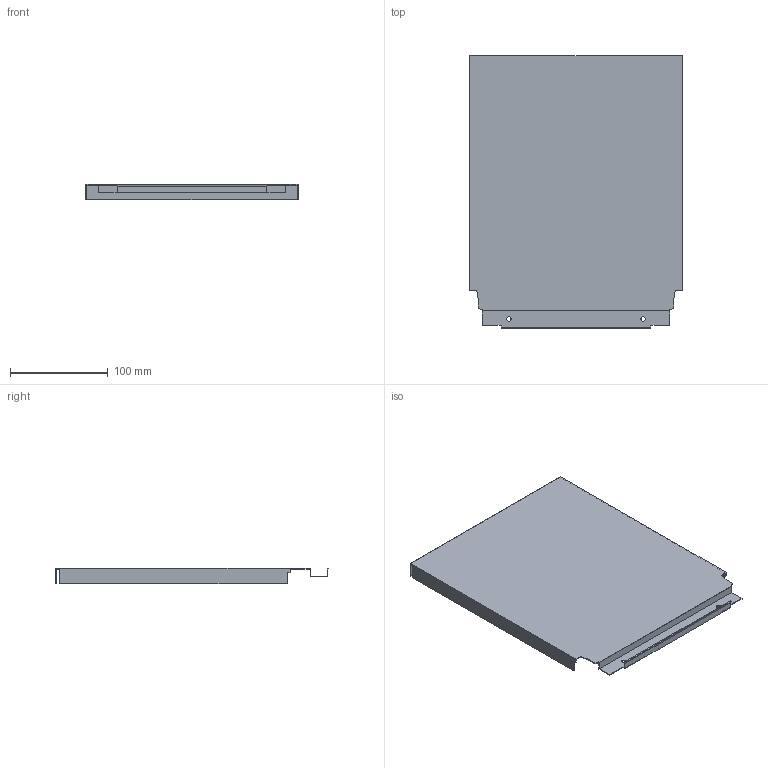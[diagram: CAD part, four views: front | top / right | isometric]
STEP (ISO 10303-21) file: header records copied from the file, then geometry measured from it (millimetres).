
FILE_DESCRIPTION (( 'STEP AP214' ), '1' );
FILE_NAME ('_DWD_XP Stahlrückwand_H278_KAB300_S16.step', '2010-07-08T13:03:43', ( 'grass' ), ( '' ), 'SwSTEP 2.0', 'SolidWorks 2010', '' );
FILE_SCHEMA (( 'AUTOMOTIVE_DESIGN' ));
Length unit declared in the file: millimetre
Products named in the file (1): _DWD_XP Stahlrückwand_H278_KAB300_S16
Bounding box: 217 x 278.57 x 16 mm (x, y, z)
Volume: 63727.7 mm3; surface area: 145818.7 mm2
Topology: 1 solids, 1 shells, 44 faces, 126 edges, 84 vertices
Faces by surface type: plane 40, cylinder 4
Entity records: 1460 total; most frequent: CARTESIAN_POINT 255, ORIENTED_EDGE 252, DIRECTION 224, EDGE_CURVE 126, LINE 118, VECTOR 118, VERTEX_POINT 84, AXIS2_PLACEMENT_3D 53
